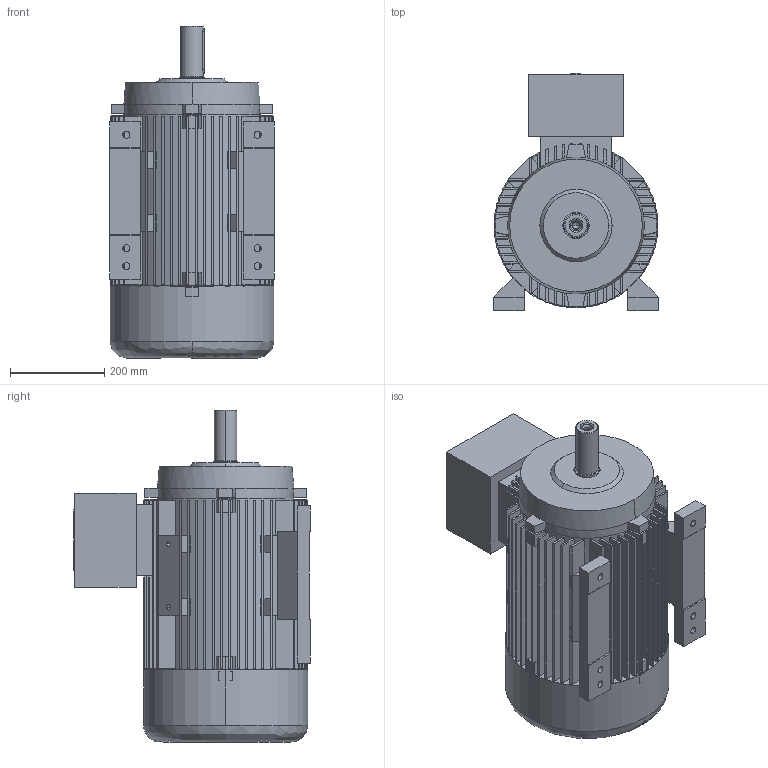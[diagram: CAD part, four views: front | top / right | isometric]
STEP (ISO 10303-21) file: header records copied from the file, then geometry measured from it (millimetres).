
FILE_DESCRIPTION (( 'STEP AP203' ), '1' );
FILE_NAME ('20.18423_A 7AT 180M&L B3 STANDK.STEP', '2018-04-24T11:28:00', ( '' ), ( '' ), 'SwSTEP 2.0', 'SolidWorks 2017', '' );
FILE_SCHEMA (( 'CONFIG_CONTROL_DESIGN' ));
Length unit declared in the file: millimetre
Products named in the file (1): 20.18423_A 7AT 180M&L B3 STANDK
Bounding box: 350 x 503 x 705 mm (x, y, z)
Volume: 20587312.5 mm3; surface area: 3297096.8 mm2
Topology: 5 solids, 7 shells, 756 faces, 2057 edges, 1345 vertices
Faces by surface type: plane 539, cylinder 166, cone 38, bspline 13
Entity records: 24523 total; most frequent: CARTESIAN_POINT 4962, DIRECTION 4091, ORIENTED_EDGE 4078, EDGE_CURVE 2039, LINE 1391, VECTOR 1391, AXIS2_PLACEMENT_3D 1350, VERTEX_POINT 1345
